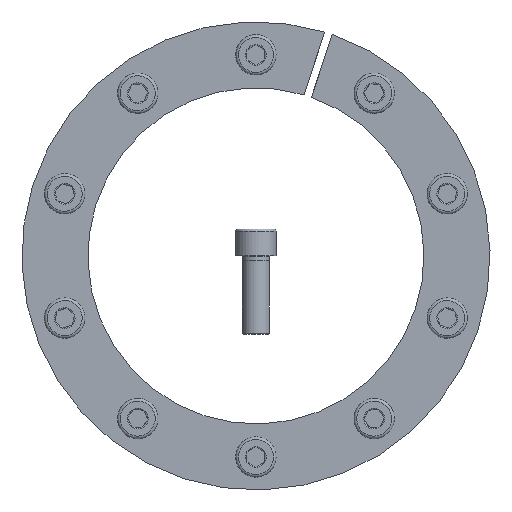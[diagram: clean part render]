
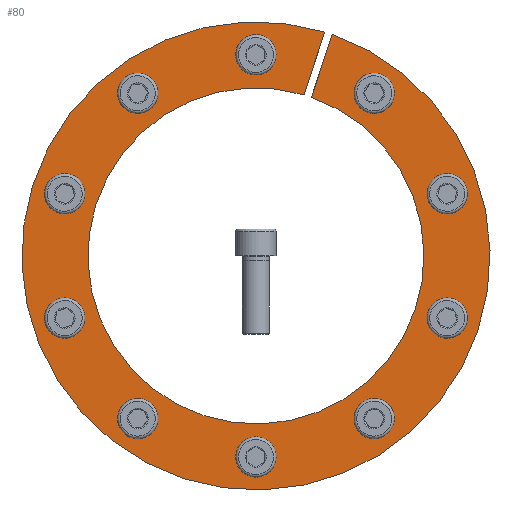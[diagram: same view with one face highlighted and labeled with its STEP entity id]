
A CAD part, front view. The second image highlights one B-rep face of the part: STEP entity #80.
In plain terms, the highlighted planar face has unit normal (0, -1, 0).
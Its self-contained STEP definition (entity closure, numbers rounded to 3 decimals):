
#80 = ADVANCED_FACE( '', ( #183, #184, #185, #186, #187, #188, #189, #190, #191, #192, #193 ), #194, .F. );
#183 = FACE_BOUND( '', #373, .T. );
#184 = FACE_BOUND( '', #374, .T. );
#185 = FACE_BOUND( '', #375, .T. );
#186 = FACE_BOUND( '', #376, .T. );
#187 = FACE_BOUND( '', #377, .T. );
#188 = FACE_BOUND( '', #378, .T. );
#189 = FACE_BOUND( '', #379, .T. );
#190 = FACE_BOUND( '', #380, .T. );
#191 = FACE_BOUND( '', #381, .T. );
#192 = FACE_BOUND( '', #382, .T. );
#193 = FACE_OUTER_BOUND( '', #383, .T. );
#194 = PLANE( '', #384 );
#373 = EDGE_LOOP( '', ( #594 ) );
#374 = EDGE_LOOP( '', ( #595 ) );
#375 = EDGE_LOOP( '', ( #596 ) );
#376 = EDGE_LOOP( '', ( #597 ) );
#377 = EDGE_LOOP( '', ( #598 ) );
#378 = EDGE_LOOP( '', ( #599 ) );
#379 = EDGE_LOOP( '', ( #600 ) );
#380 = EDGE_LOOP( '', ( #601 ) );
#381 = EDGE_LOOP( '', ( #602 ) );
#382 = EDGE_LOOP( '', ( #603 ) );
#383 = EDGE_LOOP( '', ( #604, #605, #606, #607 ) );
#384 = AXIS2_PLACEMENT_3D( '', #608, #609, #610 );
#594 = ORIENTED_EDGE( '', *, *, #914, .T. );
#595 = ORIENTED_EDGE( '', *, *, #915, .T. );
#596 = ORIENTED_EDGE( '', *, *, #916, .T. );
#597 = ORIENTED_EDGE( '', *, *, #917, .T. );
#598 = ORIENTED_EDGE( '', *, *, #912, .T. );
#599 = ORIENTED_EDGE( '', *, *, #918, .T. );
#600 = ORIENTED_EDGE( '', *, *, #919, .T. );
#601 = ORIENTED_EDGE( '', *, *, #920, .T. );
#602 = ORIENTED_EDGE( '', *, *, #906, .T. );
#603 = ORIENTED_EDGE( '', *, *, #921, .T. );
#604 = ORIENTED_EDGE( '', *, *, #922, .T. );
#605 = ORIENTED_EDGE( '', *, *, #923, .T. );
#606 = ORIENTED_EDGE( '', *, *, #924, .T. );
#607 = ORIENTED_EDGE( '', *, *, #925, .F. );
#608 = CARTESIAN_POINT( '', ( 0., 0., 104.5 ) );
#609 = DIRECTION( '', ( 0., 1., 0. ) );
#610 = DIRECTION( '', ( 0., 0., 1. ) );
#906 = EDGE_CURVE( '', #1070, #1070, #1071, .T. );
#912 = EDGE_CURVE( '', #1080, #1080, #1081, .T. );
#914 = EDGE_CURVE( '', #1083, #1083, #1084, .T. );
#915 = EDGE_CURVE( '', #1085, #1085, #1086, .T. );
#916 = EDGE_CURVE( '', #1087, #1087, #1088, .T. );
#917 = EDGE_CURVE( '', #1089, #1089, #1090, .T. );
#918 = EDGE_CURVE( '', #1091, #1091, #1092, .T. );
#919 = EDGE_CURVE( '', #1093, #1093, #1094, .T. );
#920 = EDGE_CURVE( '', #1095, #1095, #1096, .T. );
#921 = EDGE_CURVE( '', #1097, #1097, #1098, .T. );
#922 = EDGE_CURVE( '', #1099, #1100, #1101, .T. );
#923 = EDGE_CURVE( '', #1100, #1102, #1103, .T. );
#924 = EDGE_CURVE( '', #1102, #1104, #1105, .T. );
#925 = EDGE_CURVE( '', #1099, #1104, #1106, .T. );
#1070 = VERTEX_POINT( '', #1377 );
#1071 = CIRCLE( '', #1378, 6. );
#1080 = VERTEX_POINT( '', #1387 );
#1081 = CIRCLE( '', #1388, 6. );
#1083 = VERTEX_POINT( '', #1390 );
#1084 = CIRCLE( '', #1391, 6. );
#1085 = VERTEX_POINT( '', #1392 );
#1086 = CIRCLE( '', #1393, 6. );
#1087 = VERTEX_POINT( '', #1394 );
#1088 = CIRCLE( '', #1395, 6. );
#1089 = VERTEX_POINT( '', #1396 );
#1090 = CIRCLE( '', #1397, 6. );
#1091 = VERTEX_POINT( '', #1398 );
#1092 = CIRCLE( '', #1399, 6. );
#1093 = VERTEX_POINT( '', #1400 );
#1094 = CIRCLE( '', #1401, 6. );
#1095 = VERTEX_POINT( '', #1402 );
#1096 = CIRCLE( '', #1403, 6. );
#1097 = VERTEX_POINT( '', #1404 );
#1098 = CIRCLE( '', #1405, 6. );
#1099 = VERTEX_POINT( '', #1406 );
#1100 = VERTEX_POINT( '', #1407 );
#1101 = LINE( '', #1408, #1409 );
#1102 = VERTEX_POINT( '', #1410 );
#1103 = CIRCLE( '', #1411, 104.5 );
#1104 = VERTEX_POINT( '', #1412 );
#1105 = LINE( '', #1413, #1414 );
#1106 = CIRCLE( '', #1415, 75. );
#1377 = CARTESIAN_POINT( '', ( -57.608, 0., -69.083 ) );
#1378 = AXIS2_PLACEMENT_3D( '', #1602, #1603, #1604 );
#1387 = CARTESIAN_POINT( '', ( 57.608, 0., 69.083 ) );
#1388 = AXIS2_PLACEMENT_3D( '', #1614, #1615, #1616 );
#1390 = CARTESIAN_POINT( '', ( -47.9, 0., 76.136 ) );
#1391 = AXIS2_PLACEMENT_3D( '', #1617, #1618, #1619 );
#1392 = CARTESIAN_POINT( '', ( -87.211, 0., -22.028 ) );
#1393 = AXIS2_PLACEMENT_3D( '', #1620, #1621, #1622 );
#1394 = CARTESIAN_POINT( '', ( -6., 0., -89.75 ) );
#1395 = AXIS2_PLACEMENT_3D( '', #1623, #1624, #1625 );
#1396 = CARTESIAN_POINT( '', ( 83.503, 0., -33.441 ) );
#1397 = AXIS2_PLACEMENT_3D( '', #1626, #1627, #1628 );
#1398 = CARTESIAN_POINT( '', ( 6., 0., 89.75 ) );
#1399 = AXIS2_PLACEMENT_3D( '', #1629, #1630, #1631 );
#1400 = CARTESIAN_POINT( '', ( 87.211, 0., 22.028 ) );
#1401 = AXIS2_PLACEMENT_3D( '', #1632, #1633, #1634 );
#1402 = CARTESIAN_POINT( '', ( 47.9, 0., -76.136 ) );
#1403 = AXIS2_PLACEMENT_3D( '', #1635, #1636, #1637 );
#1404 = CARTESIAN_POINT( '', ( -83.503, 0., 33.441 ) );
#1405 = AXIS2_PLACEMENT_3D( '', #1638, #1639, #1640 );
#1406 = CARTESIAN_POINT( '', ( 21.506, 0., 71.851 ) );
#1407 = CARTESIAN_POINT( '', ( 30.623, 0., 99.912 ) );
#1408 = CARTESIAN_POINT( '', ( 21.506, 0., 71.851 ) );
#1409 = VECTOR( '', #1641, 1000. );
#1410 = CARTESIAN_POINT( '', ( 33.952, 0., 98.831 ) );
#1411 = AXIS2_PLACEMENT_3D( '', #1642, #1643, #1644 );
#1412 = CARTESIAN_POINT( '', ( 24.834, 0., 70.769 ) );
#1413 = CARTESIAN_POINT( '', ( 33.957, 0., 98.845 ) );
#1414 = VECTOR( '', #1645, 1000. );
#1415 = AXIS2_PLACEMENT_3D( '', #1646, #1647, #1648 );
#1602 = CARTESIAN_POINT( '', ( -52.754, 0., -72.609 ) );
#1603 = DIRECTION( '', ( 0., 1., 0. ) );
#1604 = DIRECTION( '', ( -0.809, 0., 0.588 ) );
#1614 = CARTESIAN_POINT( '', ( 52.754, 0., 72.609 ) );
#1615 = DIRECTION( '', ( 0., 1., 0. ) );
#1616 = DIRECTION( '', ( 0.809, 0., -0.588 ) );
#1617 = CARTESIAN_POINT( '', ( -52.754, 0., 72.609 ) );
#1618 = DIRECTION( '', ( 0., 1., 0. ) );
#1619 = DIRECTION( '', ( 0.809, 0., 0.588 ) );
#1620 = CARTESIAN_POINT( '', ( -85.357, 0., -27.734 ) );
#1621 = DIRECTION( '', ( 0., 1., 0. ) );
#1622 = DIRECTION( '', ( -0.309, 0., 0.951 ) );
#1623 = CARTESIAN_POINT( '', ( 0., 0., -89.75 ) );
#1624 = DIRECTION( '', ( 0., 1., 0. ) );
#1625 = DIRECTION( '', ( -1., 0., 0. ) );
#1626 = CARTESIAN_POINT( '', ( 85.357, 0., -27.734 ) );
#1627 = DIRECTION( '', ( 0., 1., 0. ) );
#1628 = DIRECTION( '', ( -0.309, 0., -0.951 ) );
#1629 = CARTESIAN_POINT( '', ( 0., 0., 89.75 ) );
#1630 = DIRECTION( '', ( 0., 1., 0. ) );
#1631 = DIRECTION( '', ( 1., 0., 0. ) );
#1632 = CARTESIAN_POINT( '', ( 85.357, 0., 27.734 ) );
#1633 = DIRECTION( '', ( 0., 1., 0. ) );
#1634 = DIRECTION( '', ( 0.309, 0., -0.951 ) );
#1635 = CARTESIAN_POINT( '', ( 52.754, 0., -72.609 ) );
#1636 = DIRECTION( '', ( 0., 1., 0. ) );
#1637 = DIRECTION( '', ( -0.809, 0., -0.588 ) );
#1638 = CARTESIAN_POINT( '', ( -85.357, 0., 27.734 ) );
#1639 = DIRECTION( '', ( 0., 1., 0. ) );
#1640 = DIRECTION( '', ( 0.309, 0., 0.951 ) );
#1641 = DIRECTION( '', ( 0.309, 0., 0.951 ) );
#1642 = CARTESIAN_POINT( '', ( 0., 0., 0. ) );
#1643 = DIRECTION( '', ( 0., -1., 0. ) );
#1644 = DIRECTION( '', ( 0., 0., -1. ) );
#1645 = DIRECTION( '', ( -0.309, 0., -0.951 ) );
#1646 = CARTESIAN_POINT( '', ( 0., 0., 0. ) );
#1647 = DIRECTION( '', ( 0., -1., 0. ) );
#1648 = DIRECTION( '', ( 0., 0., -1. ) );
